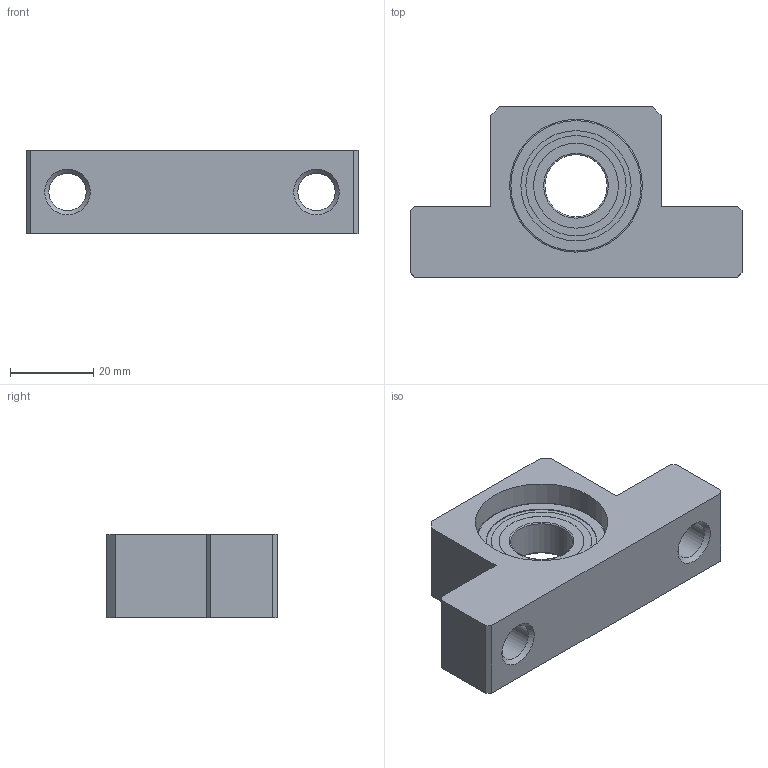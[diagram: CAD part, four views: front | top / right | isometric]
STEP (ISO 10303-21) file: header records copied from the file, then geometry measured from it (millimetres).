
FILE_DESCRIPTION(/* description */ ('STEP AP214'),/* implementation_level */ '2;1');
FILE_NAME(/* name */ 'EF15L',/* time_stamp */ '2026-09-17T13:10:26+02:00',/* author */ ('License CC BY-ND 4.0'),/* organization */ ('CADENAS'),/* preprocessor_version */ 'ST-DEVELOPER v20',/* originating_system */ 'PARTsolutions',/* authorisation */ ' ');
FILE_SCHEMA (('AUTOMOTIVE_DESIGN {1 0 10303 214 3 1 1}'));
Length unit declared in the file: millimetre
Products named in the file (3): EF15L; EF 15L Part1; EF 15L Part2
Assembly tree (2 placements, depth 2):
  EF15L
    EF 15L Part1
    EF 15L Part2
Bounding box: 80 x 41 x 20 mm (x, y, z)
Volume: 34050 mm3; surface area: 13079.4 mm2
Topology: 2 solids, 2 shells, 43 faces, 92 edges, 59 vertices
Faces by surface type: plane 24, cylinder 11, cone 4, torus 4
Full cylindrical faces by diameter (mm): 9 x2, 15 x1, 20.44 x2, 24.16 x2, 26.56 x2, 32 x2
Entity records: 1147 total; most frequent: DIRECTION 194, CARTESIAN_POINT 176, ORIENTED_EDGE 144, EDGE_LOOP 76, FACE_BOUND 76, AXIS2_PLACEMENT_3D 76, EDGE_CURVE 72, VERTEX_POINT 58
